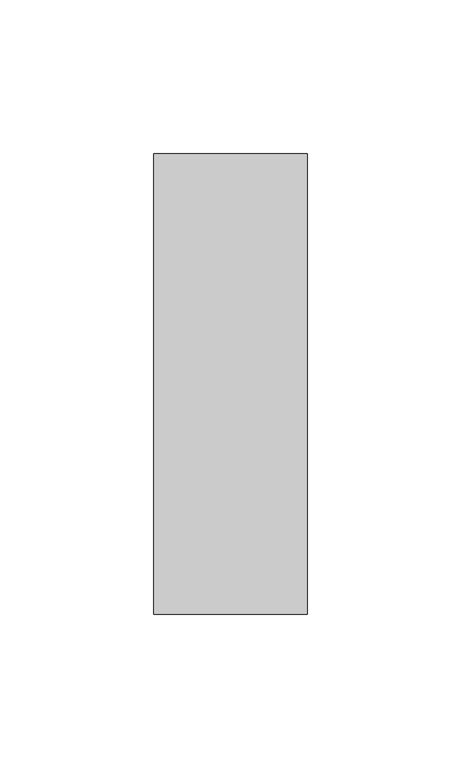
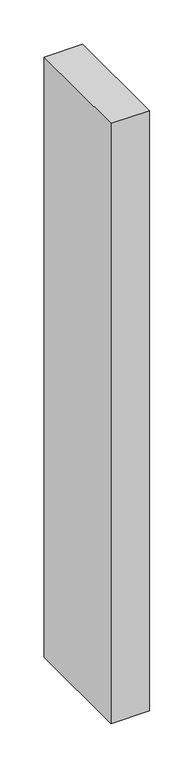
"""IFC4 building model written with IfcOpenShell, lengths in millimetres: member geometry, Прямоугольный импост : 50х150мм."""

from ifc_helpers import new_model, si_unit, frame, origin, place, context, project, spatial, polyline, outline, extrude, source, transform, mapped, element, save


def member_c7e1fe4c(model_context):
    return source(origin(), model_context, "Body", "SweptSolid", [
        extrude(outline(polyline([(25.0, 75.0), (25.0, -75.0), (-25.0, -75.0), (-25.0, 75.0), (25.0, 75.0)])), frame((0.0, 0.0, -823.8948055), z_axis=(0.0, 0.0, 1.0), x_axis=(1.0, 0.0, 0.0)), (0.0, 0.0, 1.0), 823.8948055),
    ])


if __name__ == "__main__":
    model = new_model("IFC4")
    model_context = context("Model", 3, world=origin())
    ifc_project = project(units=[si_unit("LENGTHUNIT", "METRE", prefix="MILLI")], contexts=[model_context])
    site = spatial("IfcSite", under=ifc_project)
    building = spatial("IfcBuilding", under=site)
    placement = place(None, origin())
    member_shape = member_c7e1fe4c(model_context)
    element("IfcMember", 1, ObjectType="Прямоугольный импост : 50х150мм", at=placement, inside=building, context=model_context, shape_type="MappedRepresentation", body=[
        mapped(member_shape, transform((0.0, 0.0, 0.0), x_axis=(1.0, 0.0, 0.0), y_axis=(0.0, 1.0, 0.0), z_axis=(0.0, 0.0, 1.0))),
    ])
    save(model, "model.ifc")
